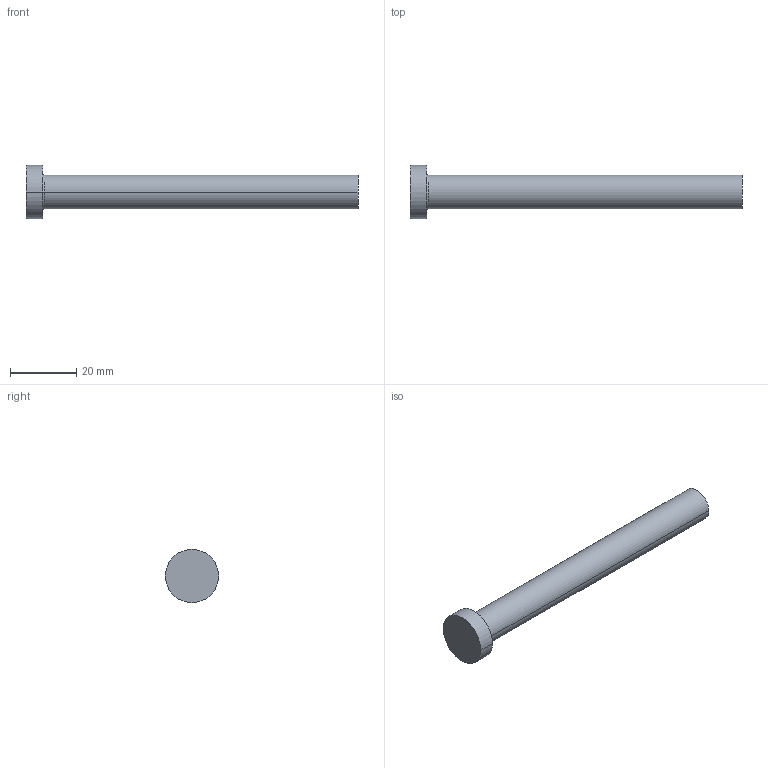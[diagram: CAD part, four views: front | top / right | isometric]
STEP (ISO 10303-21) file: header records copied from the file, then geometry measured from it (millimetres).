
FILE_DESCRIPTION (( 'STEP AP214' ), '1' );
FILE_NAME ('A-10,2x100.STEP', '2020-05-29T15:58:04', ( 'August' ), ( '' ), 'SwSTEP 2.0', 'SolidWorks 2018', '' );
FILE_SCHEMA (( 'AUTOMOTIVE_DESIGN' ));
Length unit declared in the file: millimetre
Products named in the file (1): A-10,2x100
Bounding box: 100 x 16 x 16 mm (x, y, z)
Volume: 8769.8 mm3; surface area: 3690.9 mm2
Topology: 1 solids, 1 shells, 9 faces, 16 edges, 10 vertices
Faces by surface type: cylinder 4, plane 3, torus 2
Entity records: 260 total; most frequent: DIRECTION 48, CARTESIAN_POINT 36, ORIENTED_EDGE 32, AXIS2_PLACEMENT_3D 22, EDGE_CURVE 16, CIRCLE 12, VERTEX_POINT 10, EDGE_LOOP 10
